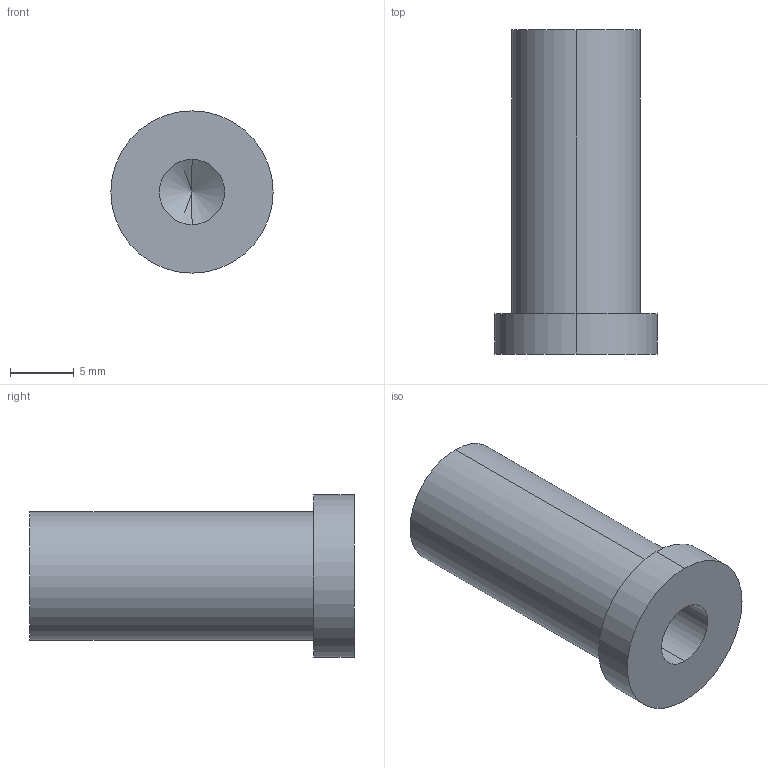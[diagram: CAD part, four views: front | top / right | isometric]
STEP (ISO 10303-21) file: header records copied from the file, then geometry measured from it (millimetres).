
FILE_DESCRIPTION (( 'STEP AP214' ), '1' );
FILE_NAME ('DRP-002-0107-01.STEP', '2010-08-12T14:17:01', ( '' ), ( '' ), 'SwSTEP 2.0', 'SolidWorks 2010', '' );
FILE_SCHEMA (( 'AUTOMOTIVE_DESIGN' ));
Length unit declared in the file: inch
Products named in the file (1): DRP-002-0107-01
Bounding box: 12.7 x 25.4 x 12.7 mm (x, y, z)
Volume: 1680.8 mm3; surface area: 1450.6 mm2
Topology: 1 solids, 1 shells, 11 faces, 22 edges, 13 vertices
Faces by surface type: cylinder 6, plane 3, cone 2
Entity records: 318 total; most frequent: DIRECTION 56, CARTESIAN_POINT 45, ORIENTED_EDGE 40, AXIS2_PLACEMENT_3D 24, EDGE_CURVE 20, EDGE_LOOP 13, VERTEX_POINT 13, CIRCLE 12
